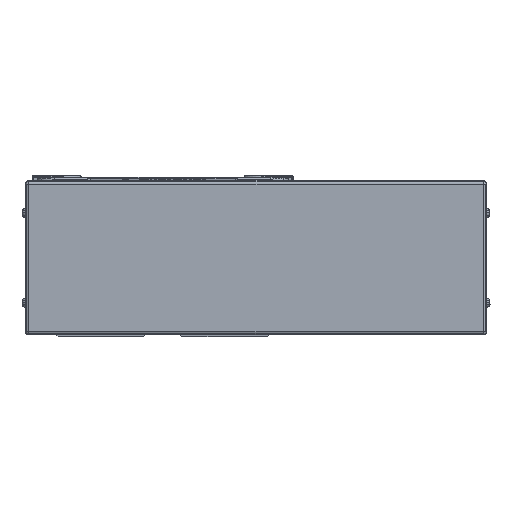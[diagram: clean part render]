
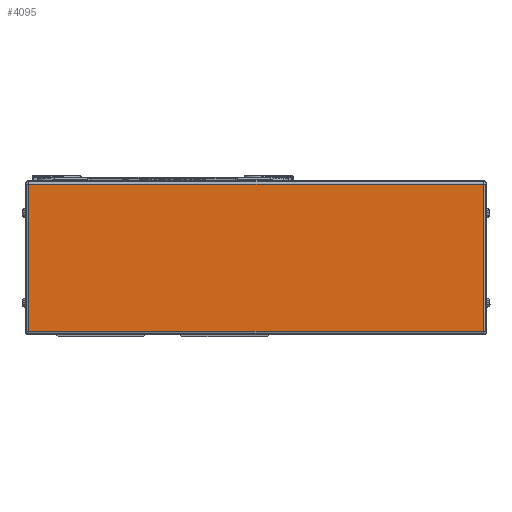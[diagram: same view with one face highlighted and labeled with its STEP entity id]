
A CAD part, left-side view. The second image highlights one B-rep face of the part: STEP entity #4095.
In plain terms, the highlighted planar face has unit normal (-1, 0, 0).
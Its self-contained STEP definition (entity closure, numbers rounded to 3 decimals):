
#4095=ADVANCED_FACE('',(#10087),#10088,.T.);
#10087=FACE_OUTER_BOUND('',#18736,.T.);
#10088=PLANE('',#18737);
#18736=EDGE_LOOP('',(#30903,#30904,#30905,#30906));
#18737=AXIS2_PLACEMENT_3D('',#30907,#30908,#30909);
#30903=ORIENTED_EDGE('',*,*,#52866,.F.);
#30904=ORIENTED_EDGE('',*,*,#50692,.F.);
#30905=ORIENTED_EDGE('',*,*,#52867,.F.);
#30906=ORIENTED_EDGE('',*,*,#52868,.F.);
#30907=CARTESIAN_POINT('',(-45.,-180.5,0.));
#30908=DIRECTION('',(-1.0,0.,0.));
#30909=DIRECTION('',(0.,0.,1.0));
#50692=EDGE_CURVE('',#60286,#60288,#60289,.T.);
#52866=EDGE_CURVE('',#60288,#64051,#64052,.T.);
#52867=EDGE_CURVE('',#64053,#60286,#64054,.T.);
#52868=EDGE_CURVE('',#64051,#64053,#64055,.T.);
#60286=VERTEX_POINT('',#74529);
#60288=VERTEX_POINT('',#74531);
#60289=LINE('',#74532,#74533);
#64051=VERTEX_POINT('',#79471);
#64052=LINE('',#79472,#79473);
#64053=VERTEX_POINT('',#79474);
#64054=LINE('',#79475,#79476);
#64055=LINE('',#79477,#79478);
#74529=CARTESIAN_POINT('',(-45.,74.5,41.));
#74531=CARTESIAN_POINT('',(-45.,-178.5,41.));
#74532=CARTESIAN_POINT('',(-45.,-180.5,41.));
#74533=VECTOR('',#92609,10.0);
#79471=CARTESIAN_POINT('',(-45.,-178.5,-41.));
#79472=CARTESIAN_POINT('',(-45.,-178.5,0.));
#79473=VECTOR('',#95759,10.0);
#79474=CARTESIAN_POINT('',(-45.,74.5,-41.));
#79475=CARTESIAN_POINT('',(-45.,74.5,0.));
#79476=VECTOR('',#95760,10.0);
#79477=CARTESIAN_POINT('',(-45.,-180.5,-41.));
#79478=VECTOR('',#95761,10.0);
#92609=DIRECTION('',(0.,-1.0,0.));
#95759=DIRECTION('',(0.,0.,-1.0));
#95760=DIRECTION('',(0.,0.,1.0));
#95761=DIRECTION('',(0.,1.0,0.));
